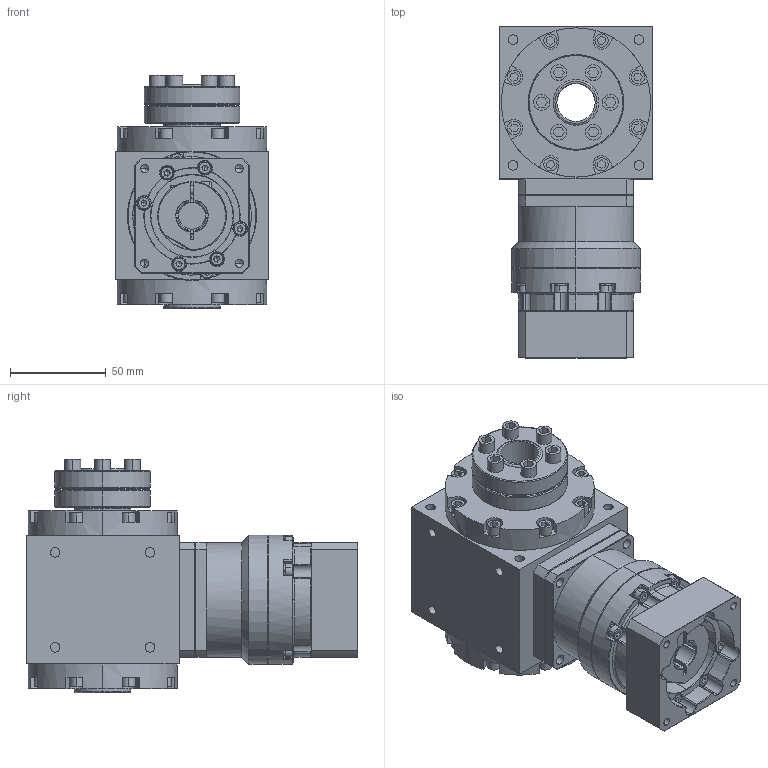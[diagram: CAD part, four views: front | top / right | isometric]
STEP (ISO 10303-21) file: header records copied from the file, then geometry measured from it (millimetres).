
FILE_DESCRIPTION (( 'STEP AP203' ), '1' );
FILE_NAME ('AAW080AS-L1-FRHP 14-50-70-M5.STEP', '2024-12-24T01:06:53', ( '' ), ( '' ), 'SwSTEP 2.0', 'SolidWorks 2021', '' );
FILE_SCHEMA (( 'CONFIG_CONTROL_DESIGN' ));
Length unit declared in the file: millimetre
Products named in the file (3): AAW080AS-L1-FRHP 14-50-70-M5; VRB-060-L1-S2-P1 14-50-70-M5; AAW080AS-FRHP
Assembly tree (2 placements, depth 2):
  AAW080AS-L1-FRHP 14-50-70-M5
    AAW080AS-FRHP
    VRB-060-L1-S2-P1 14-50-70-M5
Bounding box: 80 x 173.5 x 122 mm (x, y, z)
Volume: 796022.7 mm3; surface area: 126835.9 mm2
Topology: 32 solids, 32 shells, 1342 faces, 3279 edges, 2071 vertices
Faces by surface type: plane 638, cylinder 440, cone 192, torus 50, bspline 22
Entity records: 40740 total; most frequent: CARTESIAN_POINT 8498, DIRECTION 6966, ORIENTED_EDGE 6462, EDGE_CURVE 3231, AXIS2_PLACEMENT_3D 2648, VERTEX_POINT 2071, VECTOR 1670, LINE 1670
